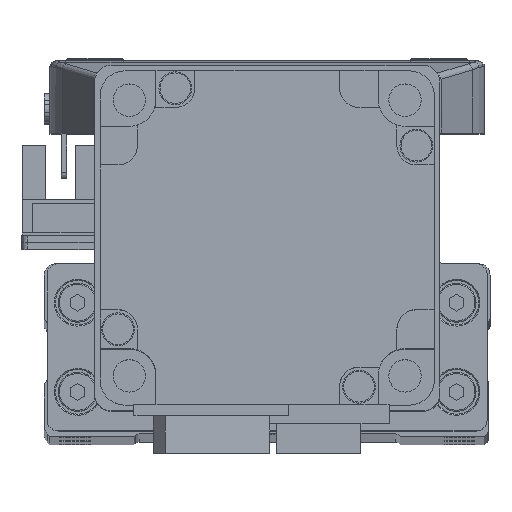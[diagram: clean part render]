
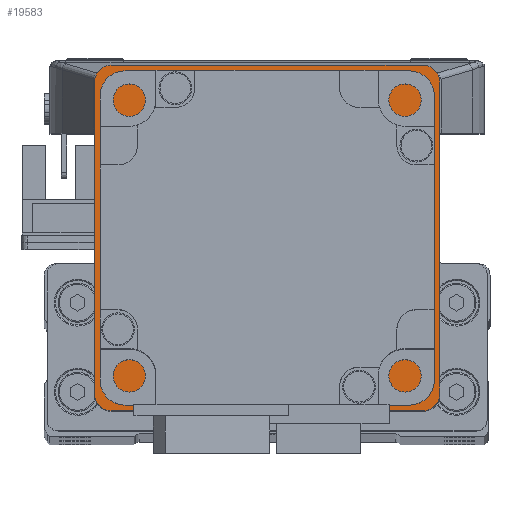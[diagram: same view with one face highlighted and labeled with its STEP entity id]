
A CAD part, top view. The second image highlights one B-rep face of the part: STEP entity #19583.
In plain terms, the highlighted planar face has unit normal (0, 0, 1).
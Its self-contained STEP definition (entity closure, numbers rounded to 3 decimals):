
#11 = CIRCLE ( 'NONE', #38738, 3. ) ;
#17 = CIRCLE ( 'NONE', #38734, 3. ) ;
#3570 = AXIS2_PLACEMENT_3D ( 'NONE', #15236, #15240, #15241 ) ;
#4933 = AXIS2_PLACEMENT_3D ( 'NONE', #14094, #14118, #14089 ) ;
#4972 = AXIS2_PLACEMENT_3D ( 'NONE', #14033, #13988, #13990 ) ;
#4980 = AXIS2_PLACEMENT_3D ( 'NONE', #14044, #14054, #14063 ) ;
#12842 = ORIENTED_EDGE ( 'NONE', *, *, #19813, .T. ) ;
#12853 = ORIENTED_EDGE ( 'NONE', *, *, #19866, .T. ) ;
#12864 = ORIENTED_EDGE ( 'NONE', *, *, #19783, .T. ) ;
#12865 = ORIENTED_EDGE ( 'NONE', *, *, #19809, .T. ) ;
#12866 = ORIENTED_EDGE ( 'NONE', *, *, #23257, .F. ) ;
#12869 = ORIENTED_EDGE ( 'NONE', *, *, #19803, .T. ) ;
#12877 = ORIENTED_EDGE ( 'NONE', *, *, #19798, .F. ) ;
#12883 = ORIENTED_EDGE ( 'NONE', *, *, #21426, .T. ) ;
#12891 = ORIENTED_EDGE ( 'NONE', *, *, #19837, .T. ) ;
#12925 = ORIENTED_EDGE ( 'NONE', *, *, #21431, .T. ) ;
#13541 = CARTESIAN_POINT ( 'NONE',  ( 30.995, 4.505, 79. ) ) ;
#13555 = DIRECTION ( 'NONE',  ( 1., 0., 0. ) ) ;
#13887 = CARTESIAN_POINT ( 'NONE',  ( -30.995, 4.505, 79. ) ) ;
#13905 = DIRECTION ( 'NONE',  ( 0., -1., 0. ) ) ;
#13988 = DIRECTION ( 'NONE',  ( 0., 0., 1. ) ) ;
#13990 = DIRECTION ( 'NONE',  ( 1., 0., 0. ) ) ;
#14006 = CARTESIAN_POINT ( 'NONE',  ( 30.995, 4.505, 79. ) ) ;
#14016 = DIRECTION ( 'NONE',  ( 0., 1., 0. ) ) ;
#14033 = CARTESIAN_POINT ( 'NONE',  ( 0., 35.5, 79. ) ) ;
#14044 = CARTESIAN_POINT ( 'NONE',  ( -27.995, 7.505, 79. ) ) ;
#14054 = DIRECTION ( 'NONE',  ( 0., 0., 1. ) ) ;
#14063 = DIRECTION ( 'NONE',  ( 1., 0., 0. ) ) ;
#14089 = DIRECTION ( 'NONE',  ( 1., 0., 0. ) ) ;
#14094 = CARTESIAN_POINT ( 'NONE',  ( 27.995, 63.495, 79. ) ) ;
#14118 = DIRECTION ( 'NONE',  ( 0., 0., 1. ) ) ;
#14232 = CARTESIAN_POINT ( 'NONE',  ( 30.995, 66.495, 79. ) ) ;
#14235 = DIRECTION ( 'NONE',  ( -1., 0., 0. ) ) ;
#15236 = CARTESIAN_POINT ( 'NONE',  ( 0., 0., 79. ) ) ;
#15239 = PLANE ( 'NONE',  #3570 ) ;
#15240 = DIRECTION ( 'NONE',  ( 0., 0., 1. ) ) ;
#15241 = DIRECTION ( 'NONE',  ( 1., 0., 0. ) ) ;
#19583 = ADVANCED_FACE ( 'NONE', ( #25899, #25900 ), #15239, .T. ) ;
#19783 = EDGE_CURVE ( 'NONE', #32138, #32114, #45540, .T. ) ;
#19798 = EDGE_CURVE ( 'NONE', #29643, #29609, #45674, .T. ) ;
#19803 = EDGE_CURVE ( 'NONE', #32112, #32131, #45718, .T. ) ;
#19809 = EDGE_CURVE ( 'NONE', #32114, #32144, #45739, .T. ) ;
#19813 = EDGE_CURVE ( 'NONE', #32131, #32134, #45801, .T. ) ;
#19837 = EDGE_CURVE ( 'NONE', #32134, #32141, #46100, .T. ) ;
#19866 = EDGE_CURVE ( 'NONE', #32144, #32145, #46229, .T. ) ;
#21426 = EDGE_CURVE ( 'NONE', #32141, #32138, #11, .T. ) ;
#21431 = EDGE_CURVE ( 'NONE', #32145, #32112, #17, .T. ) ;
#23257 = EDGE_CURVE ( 'NONE', #29609, #29643, #27857, .T. ) ;
#25899 = FACE_BOUND ( 'NONE', #35576, .T. ) ;
#25900 = FACE_OUTER_BOUND ( 'NONE', #35618, .T. ) ;
#27288 = CARTESIAN_POINT ( 'NONE',  ( -27.995, 63.495, 79. ) ) ;
#27331 = DIRECTION ( 'NONE',  ( 1., 0., 0. ) ) ;
#27346 = DIRECTION ( 'NONE',  ( 0., 0., 1. ) ) ;
#27353 = CARTESIAN_POINT ( 'NONE',  ( 27.995, 7.505, 79. ) ) ;
#27356 = DIRECTION ( 'NONE',  ( 0., 0., 1. ) ) ;
#27365 = DIRECTION ( 'NONE',  ( 1., 0., 0. ) ) ;
#27670 = CARTESIAN_POINT ( 'NONE',  ( 0., 35.5, 79. ) ) ;
#27685 = DIRECTION ( 'NONE',  ( 1., 0., 0. ) ) ;
#27699 = DIRECTION ( 'NONE',  ( 0., 0., 1. ) ) ;
#27857 = CIRCLE ( 'NONE', #38661, 25. ) ;
#29609 = VERTEX_POINT ( 'NONE', #41812 ) ;
#29643 = VERTEX_POINT ( 'NONE', #41890 ) ;
#32112 = VERTEX_POINT ( 'NONE', #42115 ) ;
#32114 = VERTEX_POINT ( 'NONE', #42104 ) ;
#32131 = VERTEX_POINT ( 'NONE', #42084 ) ;
#32134 = VERTEX_POINT ( 'NONE', #42096 ) ;
#32138 = VERTEX_POINT ( 'NONE', #42073 ) ;
#32141 = VERTEX_POINT ( 'NONE', #42075 ) ;
#32144 = VERTEX_POINT ( 'NONE', #42107 ) ;
#32145 = VERTEX_POINT ( 'NONE', #42070 ) ;
#35576 = EDGE_LOOP ( 'NONE', ( #12877, #12866 ) ) ;
#35618 = EDGE_LOOP ( 'NONE', ( #12864, #12865, #12853, #12925, #12869, #12842, #12891, #12883 ) ) ;
#38661 = AXIS2_PLACEMENT_3D ( 'NONE', #27670, #27699, #27685 ) ;
#38734 = AXIS2_PLACEMENT_3D ( 'NONE', #27353, #27346, #27365 ) ;
#38738 = AXIS2_PLACEMENT_3D ( 'NONE', #27288, #27356, #27331 ) ;
#41812 = CARTESIAN_POINT ( 'NONE',  ( -25., 35.5, 79. ) ) ;
#41890 = CARTESIAN_POINT ( 'NONE',  ( 25., 35.5, 79. ) ) ;
#42070 = CARTESIAN_POINT ( 'NONE',  ( 27.995, 4.505, 79. ) ) ;
#42073 = CARTESIAN_POINT ( 'NONE',  ( -30.995, 63.495, 79. ) ) ;
#42075 = CARTESIAN_POINT ( 'NONE',  ( -27.995, 66.495, 79. ) ) ;
#42084 = CARTESIAN_POINT ( 'NONE',  ( 30.995, 63.495, 79. ) ) ;
#42096 = CARTESIAN_POINT ( 'NONE',  ( 27.995, 66.495, 79. ) ) ;
#42104 = CARTESIAN_POINT ( 'NONE',  ( -30.995, 7.505, 79. ) ) ;
#42107 = CARTESIAN_POINT ( 'NONE',  ( -27.995, 4.505, 79. ) ) ;
#42115 = CARTESIAN_POINT ( 'NONE',  ( 30.995, 7.505, 79. ) ) ;
#45499 = VECTOR ( 'NONE', #13905, 1000. ) ;
#45540 = LINE ( 'NONE', #13887, #45499 ) ;
#45674 = CIRCLE ( 'NONE', #4972, 25. ) ;
#45701 = VECTOR ( 'NONE', #14016, 1000. ) ;
#45718 = LINE ( 'NONE', #14006, #45701 ) ;
#45739 = CIRCLE ( 'NONE', #4980, 3. ) ;
#45801 = CIRCLE ( 'NONE', #4933, 3. ) ;
#46017 = VECTOR ( 'NONE', #14235, 1000. ) ;
#46100 = LINE ( 'NONE', #14232, #46017 ) ;
#46198 = VECTOR ( 'NONE', #13555, 1000. ) ;
#46229 = LINE ( 'NONE', #13541, #46198 ) ;
